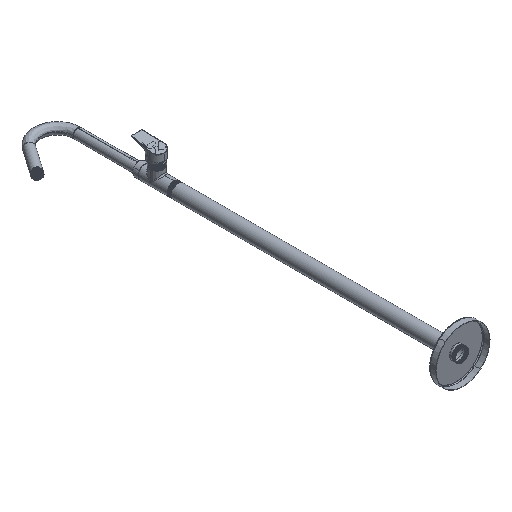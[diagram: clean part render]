
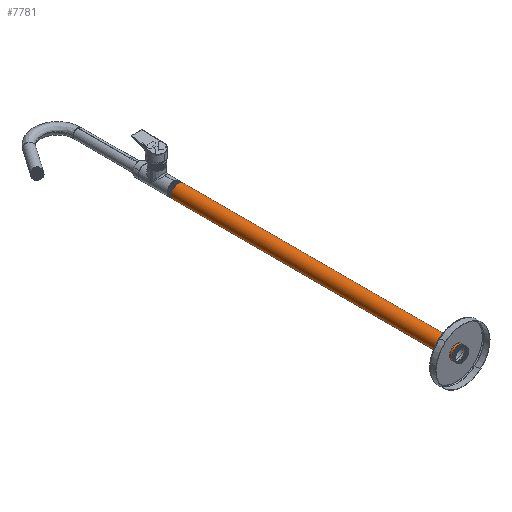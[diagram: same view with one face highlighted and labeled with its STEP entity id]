
A CAD part, isometric view. The second image highlights one B-rep face of the part: STEP entity #7781.
In plain terms, the highlighted cylindrical face has radius 20 mm (diameter 40 mm), a partial arc.
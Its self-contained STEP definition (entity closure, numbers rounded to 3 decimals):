
#1590 = DIRECTION ( 'NONE',  ( 0.679, 0., 0.734 ) ) ;
#1601 = FACE_OUTER_BOUND ( 'NONE', #20901, .T. ) ;
#3422 = VECTOR ( 'NONE', #29352, 1000. ) ;
#7781 = ADVANCED_FACE ( 'NONE', ( #1601 ), #21650, .T. ) ;
#10713 = CARTESIAN_POINT ( 'NONE',  ( 13.587, 853., 14.676 ) ) ;
#11295 = VERTEX_POINT ( 'NONE', #59659 ) ;
#11926 = CARTESIAN_POINT ( 'NONE',  ( 7.508, 13.656, 20.304 ) ) ;
#14025 = AXIS2_PLACEMENT_3D ( 'NONE', #32786, #41673, #32148 ) ;
#15296 = VERTEX_POINT ( 'NONE', #42598 ) ;
#16828 = CARTESIAN_POINT ( 'NONE',  ( -0.77, 13.562, 19.985 ) ) ;
#17459 = CARTESIAN_POINT ( 'NONE',  ( 13.587, 3., 14.676 ) ) ;
#18141 = CARTESIAN_POINT ( 'NONE',  ( -13.587, 13., -14.676 ) ) ;
#20901 = EDGE_LOOP ( 'NONE', ( #62253, #51520, #47034, #35747 ) ) ;
#21650 = CYLINDRICAL_SURFACE ( 'NONE', #14025, 20. ) ;
#21764 = CARTESIAN_POINT ( 'NONE',  ( -19.985, 13.187, -0.77 ) ) ;
#22984 =( BOUNDED_CURVE ( )  B_SPLINE_CURVE ( 2, ( #18141, #32585, #21764, #27006, #41790, #56884, #16828, #11926, #37517 ),
 .UNSPECIFIED., .F., .F. ) 
 B_SPLINE_CURVE_WITH_KNOTS ( ( 3, 2, 2, 2, 3 ),
 ( 0.906, 0.922, 0.937, 0.953, 0.969 ),
 .UNSPECIFIED. ) 
 CURVE ( )  GEOMETRIC_REPRESENTATION_ITEM ( )  RATIONAL_B_SPLINE_CURVE ( ( 1., 0.924, 1., 0.924, 1., 0.924, 1., 0.924, 1. ) ) 
 REPRESENTATION_ITEM ( '' )  );
#26873 = DIRECTION ( 'NONE',  ( 0., -1., 0. ) ) ;
#27006 = CARTESIAN_POINT ( 'NONE',  ( -20.304, 13.281, 7.508 ) ) ;
#29352 = DIRECTION ( 'NONE',  ( 0., 1., 0. ) ) ;
#31601 = CARTESIAN_POINT ( 'NONE',  ( 13.587, 13.75, 14.676 ) ) ;
#31809 = CARTESIAN_POINT ( 'NONE',  ( 0., 853., 0. ) ) ;
#32148 = DIRECTION ( 'NONE',  ( -0.679, 0., -0.734 ) ) ;
#32585 = CARTESIAN_POINT ( 'NONE',  ( -19.666, 13.094, -9.048 ) ) ;
#32786 = CARTESIAN_POINT ( 'NONE',  ( 0., 3., 0. ) ) ;
#32988 = VECTOR ( 'NONE', #62765, 1000. ) ;
#35747 = ORIENTED_EDGE ( 'NONE', *, *, #55332, .F. ) ;
#36815 = LINE ( 'NONE', #17459, #32988 ) ;
#37517 = CARTESIAN_POINT ( 'NONE',  ( 13.587, 13.75, 14.676 ) ) ;
#40619 = VERTEX_POINT ( 'NONE', #31601 ) ;
#41673 = DIRECTION ( 'NONE',  ( 0., 1., 0. ) ) ;
#41790 = CARTESIAN_POINT ( 'NONE',  ( -14.676, 13.375, 13.587 ) ) ;
#42598 = CARTESIAN_POINT ( 'NONE',  ( -13.587, 13., -14.676 ) ) ;
#43847 = VERTEX_POINT ( 'NONE', #10713 ) ;
#47034 = ORIENTED_EDGE ( 'NONE', *, *, #50016, .T. ) ;
#50016 = EDGE_CURVE ( 'NONE', #43847, #11295, #51919, .T. ) ;
#51520 = ORIENTED_EDGE ( 'NONE', *, *, #53050, .T. ) ;
#51919 = CIRCLE ( 'NONE', #54050, 20. ) ;
#53050 = EDGE_CURVE ( 'NONE', #40619, #43847, #36815, .T. ) ;
#54050 = AXIS2_PLACEMENT_3D ( 'NONE', #31809, #26873, #1590 ) ;
#54955 = CARTESIAN_POINT ( 'NONE',  ( -13.587, 3., -14.676 ) ) ;
#55332 = EDGE_CURVE ( 'NONE', #15296, #11295, #59569, .T. ) ;
#56884 = CARTESIAN_POINT ( 'NONE',  ( -9.048, 13.469, 19.666 ) ) ;
#59208 = EDGE_CURVE ( 'NONE', #15296, #40619, #22984, .T. ) ;
#59569 = LINE ( 'NONE', #54955, #3422 ) ;
#59659 = CARTESIAN_POINT ( 'NONE',  ( -13.587, 853., -14.676 ) ) ;
#62253 = ORIENTED_EDGE ( 'NONE', *, *, #59208, .T. ) ;
#62765 = DIRECTION ( 'NONE',  ( 0., 1., 0. ) ) ;
